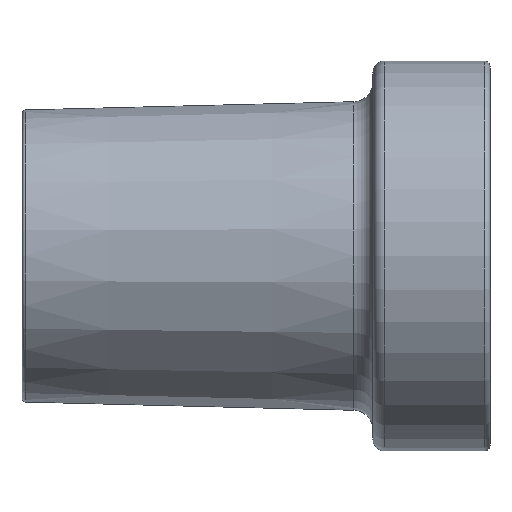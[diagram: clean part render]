
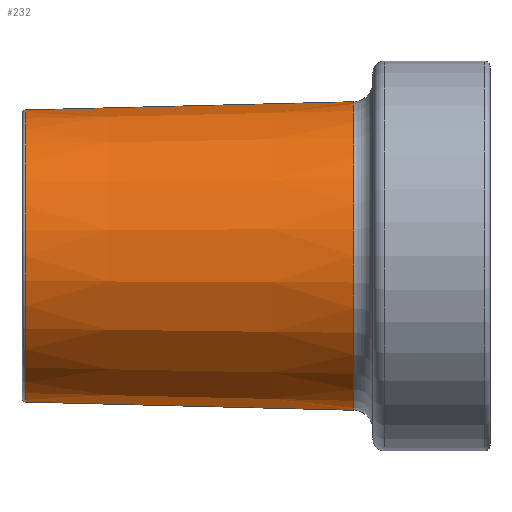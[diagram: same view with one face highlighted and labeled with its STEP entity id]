
A CAD part, top view. The second image highlights one B-rep face of the part: STEP entity #232.
In plain terms, the highlighted conical face has half-angle 1.432 degrees and reference radius 7.935 mm.
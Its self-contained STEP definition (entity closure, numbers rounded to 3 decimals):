
#166=CONICAL_SURFACE('',#2521,7.935,1.432);
#194=CIRCLE('',#2493,7.49);
#211=CIRCLE('',#2520,7.911);
#232=ADVANCED_FACE('',(#403),#166,.T.);
#403=FACE_OUTER_BOUND('',#548,.T.);
#548=EDGE_LOOP('',(#1085,#1086,#1087,#1088));
#699=LINE('',#4015,#812);
#700=LINE('',#4017,#813);
#812=VECTOR('',#2730,1.);
#813=VECTOR('',#2733,1.);
#1085=ORIENTED_EDGE('',*,*,#1911,.T.);
#1086=ORIENTED_EDGE('',*,*,#2030,.T.);
#1087=ORIENTED_EDGE('',*,*,#2031,.T.);
#1088=ORIENTED_EDGE('',*,*,#2032,.F.);
#1668=VERTEX_POINT('',#3152);
#1669=VERTEX_POINT('',#3153);
#1672=VERTEX_POINT('',#3161);
#1673=VERTEX_POINT('',#3162);
#1911=EDGE_CURVE('',#1672,#1673,#194,.T.);
#2030=EDGE_CURVE('',#1673,#1669,#699,.T.);
#2031=EDGE_CURVE('',#1669,#1668,#211,.T.);
#2032=EDGE_CURVE('',#1672,#1668,#700,.T.);
#2493=AXIS2_PLACEMENT_3D('',#3160,#2669,#2670);
#2520=AXIS2_PLACEMENT_3D('',#4016,#2731,#2732);
#2521=AXIS2_PLACEMENT_3D('',#4018,#2734,#2735);
#2669=DIRECTION('',(1.,0.,0.));
#2670=DIRECTION('',(0.,-1.,0.));
#2730=DIRECTION('',(1.,-0.025,0.));
#2731=DIRECTION('',(-1.,0.,0.));
#2732=DIRECTION('',(0.,1.,0.));
#2733=DIRECTION('',(1.,0.025,0.));
#2734=DIRECTION('',(1.,0.,0.));
#2735=DIRECTION('',(0.,-1.,0.));
#3152=CARTESIAN_POINT('',(-51.975,14.488,-9.005));
#3153=CARTESIAN_POINT('',(-51.975,-1.333,-9.005));
#3160=CARTESIAN_POINT('',(-68.805,6.578,-9.005));
#3161=CARTESIAN_POINT('',(-68.805,14.067,-9.005));
#3162=CARTESIAN_POINT('',(-68.805,-0.912,-9.005));
#4015=CARTESIAN_POINT('',(-51.,-1.357,-9.005));
#4016=CARTESIAN_POINT('',(-51.975,6.578,-9.005));
#4017=CARTESIAN_POINT('',(-51.,14.513,-9.005));
#4018=CARTESIAN_POINT('',(-51.,6.578,-9.005));
